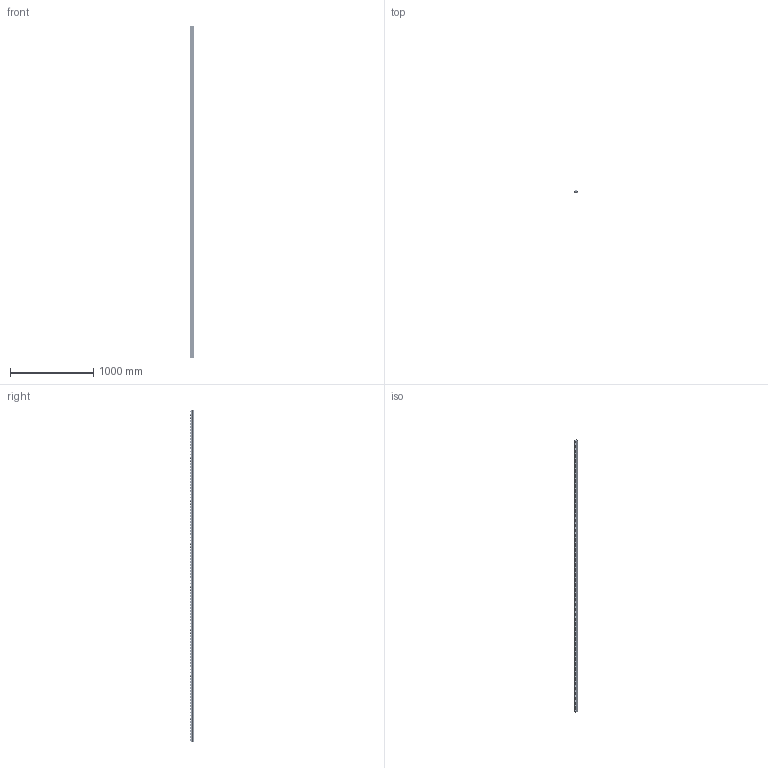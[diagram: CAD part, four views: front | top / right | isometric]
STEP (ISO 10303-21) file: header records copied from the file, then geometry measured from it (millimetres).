
FILE_DESCRIPTION (( 'STEP AP214' ), '1' );
FILE_NAME ('990-002esd-4000.step', '2022-09-28T08:50:09', ( '' ), ( '' ), 'SwSTEP 2.0', 'SolidWorks 2021', '' );
FILE_SCHEMA (( 'AUTOMOTIVE_DESIGN' ));
Length unit declared in the file: millimetre
Products named in the file (1): 990-002esd-4000
Bounding box: 41 x 44.99 x 4000 mm (x, y, z)
Volume: 2044486.6 mm3; surface area: 1893491.3 mm2
Topology: 325 solids, 325 shells, 7420 faces, 21066 edges, 14080 vertices
Faces by surface type: plane 4572, cylinder 2200, torus 648
Full cylindrical faces by diameter (mm): 3 x216, 6 x648, 30 x108, 33 x108
Entity records: 383572 total; most frequent: CARTESIAN_POINT 107151, DIRECTION 41064, ORIENTED_EDGE 37380, EDGE_CURVE 18690, AXIS2_PLACEMENT_3D 15493, VERTEX_POINT 13432, EDGE_LOOP 10442, LINE 10078
